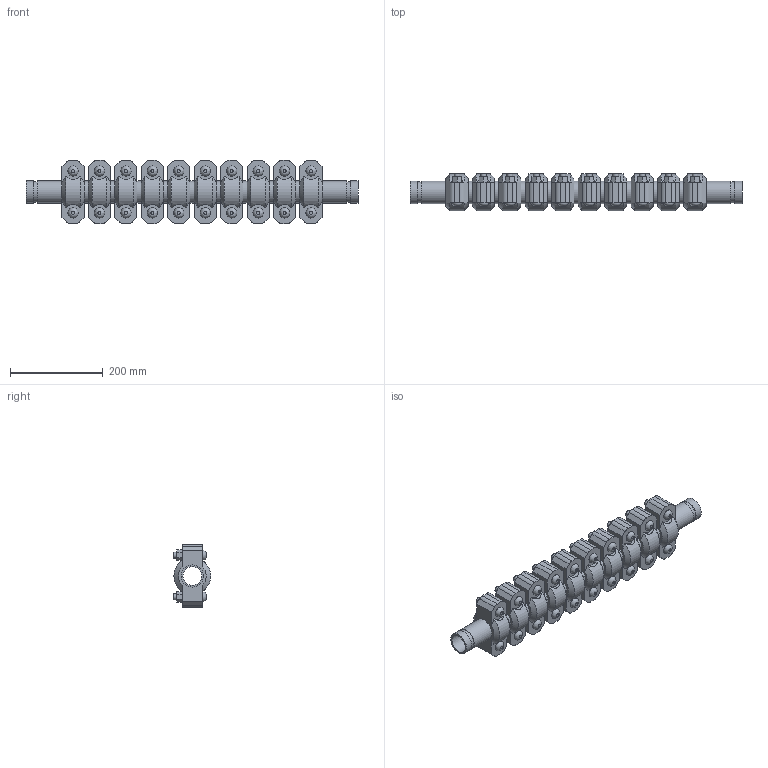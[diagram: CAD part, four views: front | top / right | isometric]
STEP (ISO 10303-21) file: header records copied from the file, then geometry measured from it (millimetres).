
FILE_DESCRIPTION(/* description */ ('VIC EXPANSION JOINT 10 COUPLINGS COMPRESSED STYLE 155 (OGS)','CAx-IF Rec.Pracs.---Representation and Presentation of Product Manufacturing Information (PMI)---4.0---2014-10-13'),/* implementation_level */ '2;1');
FILE_NAME(/* name */ 'C:\Users\kkamble\AppData\Roaming\Autodesk\ApplicationPlugins\Victaulic.Temp\A539\Victaulic_IPS_Expansion Joint_Compressed_10 Couplings_Style 155 (OGS)_1.5 (40).stp',/* time_stamp */ '2021-06-27T00:16:18+02:00',/* author */ ('kkamble'),/* organization */ ('Victaulic'),/* preprocessor_version */ 'ST-DEVELOPER v17.2',/* originating_system */ 'Autodesk Inventor 2019',/* authorisation */ '');
FILE_SCHEMA (('AP242_MANAGED_MODEL_BASED_3D_ENGINEERING_MIM_LF { 1 0 10303 442 1 1 4 }'));
Length unit declared in the file: inch
Products named in the file (4): 155-01.5; Nipple-01.5; Nipple-01.5_1; 077-01.5
Assembly tree (21 placements, depth 2):
  155-01.5
    Nipple-01.5  x2
    Nipple-01.5_1  x9
    077-01.5  x10
Bounding box: 717.55 x 81.03 x 136.65 mm (x, y, z)
Volume: 2961445.2 mm3; surface area: 667880.7 mm2
Topology: 21 solids, 41 shells, 702 faces, 1720 edges, 1204 vertices
Faces by surface type: plane 406, cylinder 236, cone 40, bspline 20
Full cylindrical faces by diameter (mm): 12.7 x40, 14.605 x20, 40.894 x11, 45.085 x22, 48.26 x43
Entity records: 3003 total; most frequent: CARTESIAN_POINT 599, DIRECTION 487, ORIENTED_EDGE 398, EDGE_CURVE 199, AXIS2_PLACEMENT_3D 196, VERTEX_POINT 142, EDGE_LOOP 105, LINE 95
